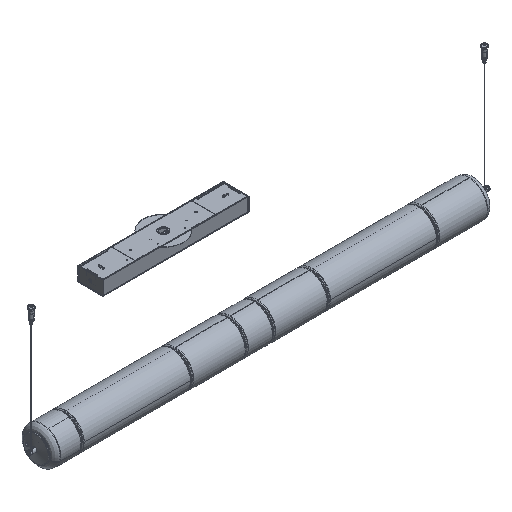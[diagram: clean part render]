
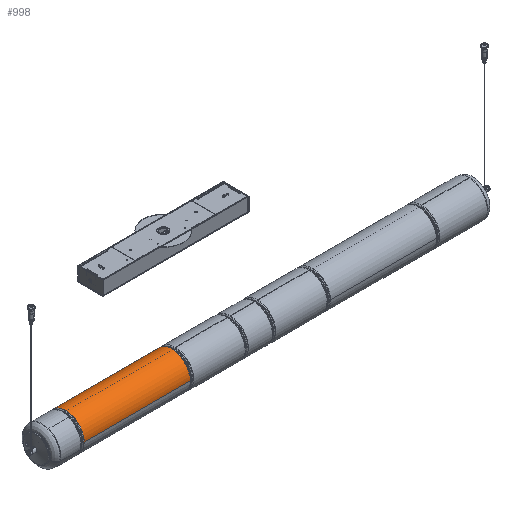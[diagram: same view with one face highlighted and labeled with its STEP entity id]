
A CAD part, isometric view. The second image highlights one B-rep face of the part: STEP entity #998.
In plain terms, the highlighted cylindrical face has radius 50 mm (diameter 100 mm), a partial arc.
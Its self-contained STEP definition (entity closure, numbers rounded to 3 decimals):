
#998=ADVANCED_FACE('',(#2062),#16591,.T.);
#2062=FACE_OUTER_BOUND('',#3161,.T.);
#3161=EDGE_LOOP('',(#4997,#4998,#4999,#5000));
#4997=ORIENTED_EDGE('',*,*,#9735,.T.);
#4998=ORIENTED_EDGE('',*,*,#9705,.F.);
#4999=ORIENTED_EDGE('',*,*,#9714,.F.);
#5000=ORIENTED_EDGE('',*,*,#9712,.T.);
#9705=EDGE_CURVE('',#14652,#14654,#13249,.T.);
#9712=EDGE_CURVE('',#14659,#14660,#13256,.T.);
#9714=EDGE_CURVE('',#14659,#14652,#12017,.T.);
#9735=EDGE_CURVE('',#14660,#14654,#12022,.T.);
#12017=B_SPLINE_CURVE_WITH_KNOTS('',1,(#21248,#21249),.UNSPECIFIED.,.F.,
 .F.,(2,2),(29.32,321.32),.UNSPECIFIED.);
#12022=B_SPLINE_CURVE_WITH_KNOTS('',1,(#21314,#21315),.UNSPECIFIED.,.F.,
 .F.,(2,2),(29.32,321.32),.UNSPECIFIED.);
#13249=(
BOUNDED_CURVE()
B_SPLINE_CURVE(2,(#21213,#21214,#21215,#21216,#21217),.UNSPECIFIED.,.F.,
 .F.)
B_SPLINE_CURVE_WITH_KNOTS((3,2,3),(0.,72.257,144.513),
 .UNSPECIFIED.)
CURVE()
GEOMETRIC_REPRESENTATION_ITEM()
RATIONAL_B_SPLINE_CURVE((1.,0.707,1.,0.707,1.))
REPRESENTATION_ITEM('')
);
#13256=(
BOUNDED_CURVE()
B_SPLINE_CURVE(2,(#21240,#21241,#21242,#21243,#21244),.UNSPECIFIED.,.F.,
 .F.)
B_SPLINE_CURVE_WITH_KNOTS((3,2,3),(78.54,157.08,235.619),
 .UNSPECIFIED.)
CURVE()
GEOMETRIC_REPRESENTATION_ITEM()
RATIONAL_B_SPLINE_CURVE((1.,0.707,1.,0.707,1.))
REPRESENTATION_ITEM('')
);
#14652=VERTEX_POINT('',#21016);
#14654=VERTEX_POINT('',#21018);
#14659=VERTEX_POINT('',#21023);
#14660=VERTEX_POINT('',#21024);
#16591=CYLINDRICAL_SURFACE('',#17078,50.);
#17078=AXIS2_PLACEMENT_3D('',#20428,#17902,$);
#17902=DIRECTION('',(1.,0.,0.));
#20428=CARTESIAN_POINT('',(-121.,0.,-343.5));
#21016=CARTESIAN_POINT('',(25.,50.,-343.5));
#21018=CARTESIAN_POINT('',(25.,-50.,-343.5));
#21023=CARTESIAN_POINT('',(-267.,50.,-343.5));
#21024=CARTESIAN_POINT('',(-267.,-50.,-343.5));
#21213=CARTESIAN_POINT('',(25.,50.,-343.5));
#21214=CARTESIAN_POINT('',(25.,50.,-293.5));
#21215=CARTESIAN_POINT('',(25.,0.,-293.5));
#21216=CARTESIAN_POINT('',(25.,-50.,-293.5));
#21217=CARTESIAN_POINT('',(25.,-50.,-343.5));
#21240=CARTESIAN_POINT('',(-267.,50.,-343.5));
#21241=CARTESIAN_POINT('',(-267.,50.,-293.5));
#21242=CARTESIAN_POINT('',(-267.,0.,-293.5));
#21243=CARTESIAN_POINT('',(-267.,-50.,-293.5));
#21244=CARTESIAN_POINT('',(-267.,-50.,-343.5));
#21248=CARTESIAN_POINT('',(-267.,50.,-343.5));
#21249=CARTESIAN_POINT('',(25.,50.,-343.5));
#21314=CARTESIAN_POINT('',(-267.,-50.,-343.5));
#21315=CARTESIAN_POINT('',(25.,-50.,-343.5));
